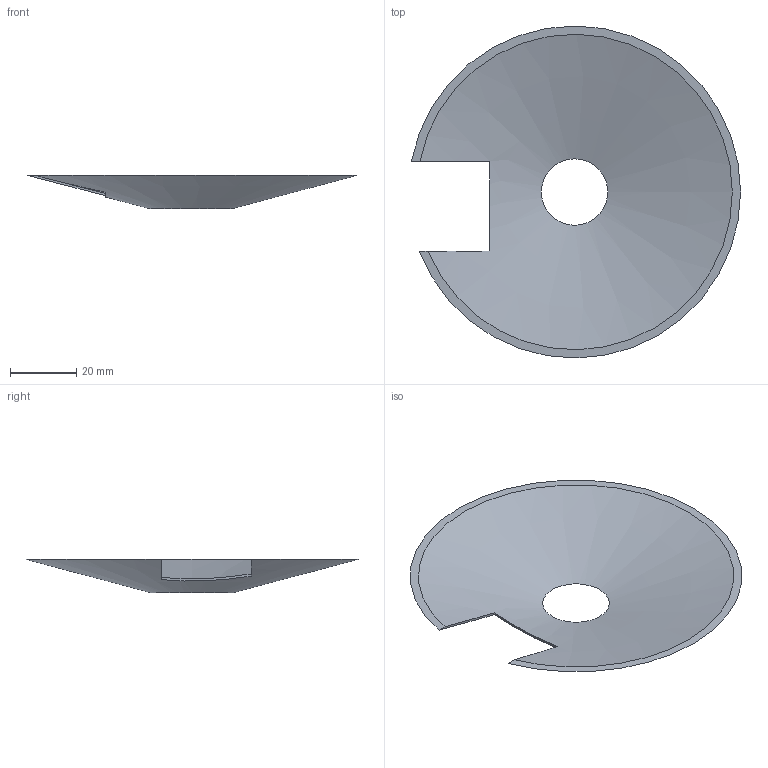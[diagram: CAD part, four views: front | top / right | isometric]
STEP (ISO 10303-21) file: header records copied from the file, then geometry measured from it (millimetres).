
FILE_DESCRIPTION(/* description */ ('STEP AP242 Edition 2','CAx-IF Rec.Pracs.---Representation and Presentation of Product Manufacturing Information (PMI)---4.0---2014-10-13','CAx-IF Rec.Pracs.---3D Tessellated Geometry---0.4---2014-09-14','2;1','CAx-IF Rec.Pracs.---User Defined Attributes---1.5---2016-08-15'),/* implementation_level */ '2;1');
FILE_NAME(/* name */ 'Part Studio 1 - Part 6',/* time_stamp */ '2026-10-19T00:09:51Z',/* author */ (''),/* organization */ (''),/* preprocessor_version */ 'ST-DEVELOPER v20',/* originating_system */ 'ONSHAPE BY PTC INC, 1.222',/* authorisation */ ' ');
FILE_SCHEMA (('AP242_MANAGED_MODEL_BASED_3D_ENGINEERING_MIM_LF { 1 0 10303 442 3 1 4 }'));
Length unit declared in the file: metre
Products named in the file (1): Part 6
Bounding box: 99.15 x 100 x 10 mm (x, y, z)
Volume: 4308.7 mm3; surface area: 14298.3 mm2
Topology: 1 solids, 1 shells, 7 faces, 18 edges, 12 vertices
Faces by surface type: plane 5, cone 2
Entity records: 224 total; most frequent: CARTESIAN_POINT 54, ORIENTED_EDGE 28, DIRECTION 28, EDGE_CURVE 14, AXIS2_PLACEMENT_3D 12, VERTEX_POINT 10, EDGE_LOOP 10, FACE_BOUND 10
